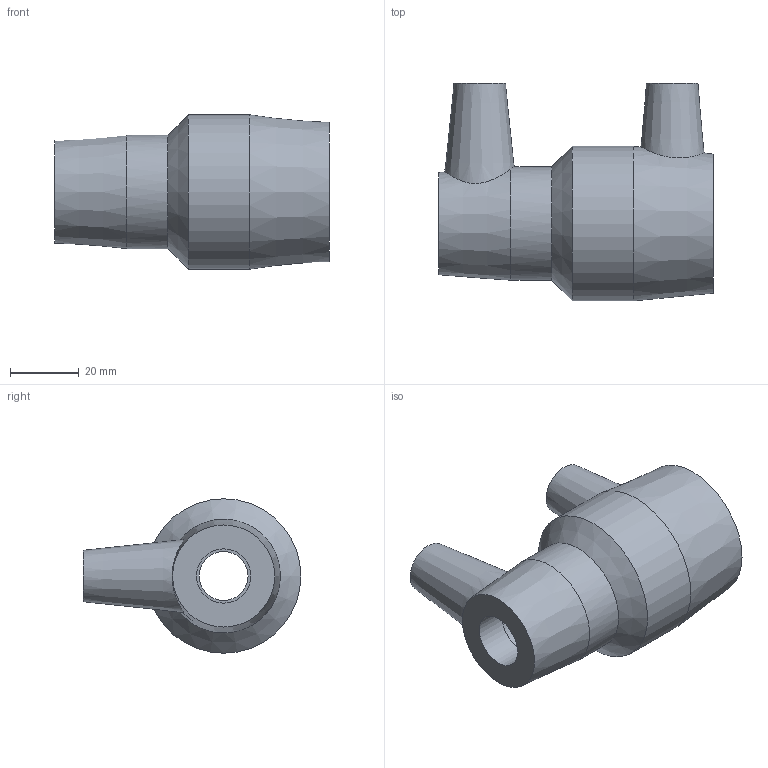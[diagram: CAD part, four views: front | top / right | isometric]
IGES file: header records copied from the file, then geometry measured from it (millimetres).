
Global section: file name: 5911UU03010005.ipt; native system: Autodesk Inventor 2019; preprocessor: unknown; author: KIM; date: 20210830.101030; units: inch
Bounding box: 80.01 x 63.37 x 44.96 mm (x, y, z)
Volume: 70345.2 mm3; surface area: 20748.9 mm2
Topology: 1 solids, 1 shells, 32 faces, 74 edges, 52 vertices
Faces by surface type: plane 12, revolution 11, cone 5, cylinder 4
Full cylindrical faces by diameter (mm): 4 x2, 33.02 x1, 44.958 x1
